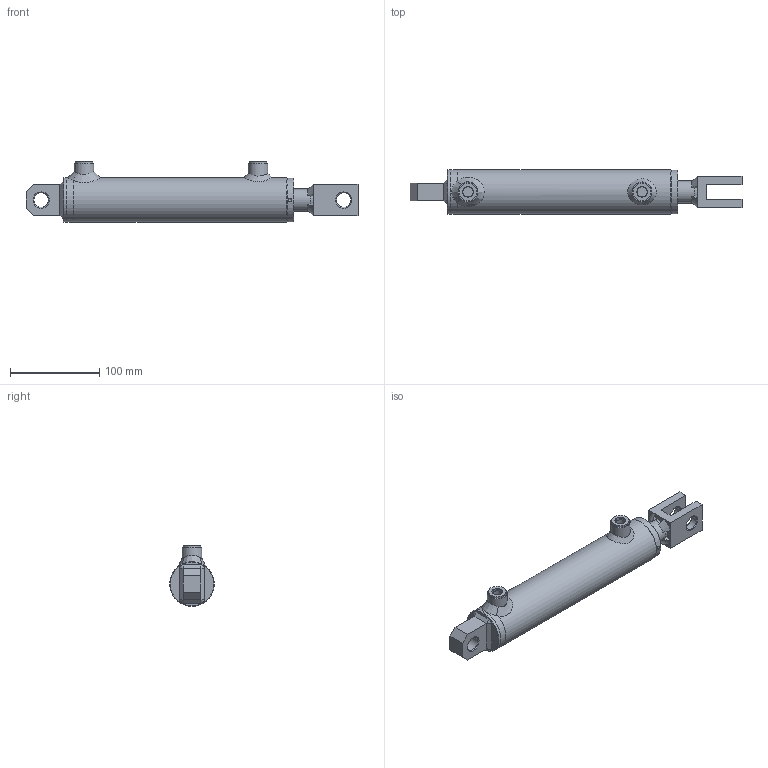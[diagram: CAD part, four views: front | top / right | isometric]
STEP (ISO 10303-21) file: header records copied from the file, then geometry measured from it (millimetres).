
FILE_DESCRIPTION( ( 'Unknown' ), '1' );
FILE_NAME( 'E:/LIBRERIA_3d/CILINDRI/HM5/HM51250150.stp', 'Unknown', ( 'Unknown' ), ( 'Unknown' ), 'PSStep 17.0.49', 'Unknown', ' ' );
FILE_SCHEMA( ( 'AUTOMOTIVE_DESIGN { 1 0 10303 214 1 1 1 1 }' ) );
Length unit declared in the file: millimetre
Products named in the file (35): STL1500150-oa7; Saldatura d'angolo 1-oa5; FTM1500150-oa6; CBSC220400; CG05004025; CT00040015; HM01250150; Saldatura con preparazione 1-oa3; Saldatura d'angolo 1-oa4; CF00040050; CDA0001415; CBS0400000; APG0400000; SBL2510150; Assem1; CSCS004010; COF1600000; CFS0000016; Saldatura con preparazione 1-oa0; Saldatura d'angolo 1-oa1; Saldatura d'angolo 2-oa2
Assembly tree (22 placements, depth 4):
  Saldatura d'angolo 1-oa5
  Saldatura d'angolo 1-oa5
  Saldatura d'angolo 1-oa4
  Saldatura d'angolo 1-oa4
  Assem1
    CSCS004010  x2
    COF1600000
    CFS0000016
    Saldatura con preparazione 1-oa0
    Saldatura con preparazione 1-oa0
    HM01250150
      Saldatura con preparazione 1-oa3
      Saldatura con preparazione 1-oa3
      CF00040050
      CDA0001415
      CBS0400000
      APG0400000  x2
      SBL2510150
      CT00040015
        CT00040015
      CG05004025
        CG05004025
      STL1500150-oa7
        FTM1500150-oa6
        CBSC220400
Bounding box: 372 x 50 x 68 mm (x, y, z)
Volume: 444557.6 mm3; surface area: 164357.1 mm2
Topology: 32 solids, 32 shells, 317 faces, 665 edges, 411 vertices
Faces by surface type: plane 118, cylinder 75, cone 58, bspline 34, torus 32
Full cylindrical faces by diameter (mm): 4 x4, 4.25 x3, 7 x2, 11.445 x2, 12 x2, 13.1 x2, 14 x2, 15 x3, 16.2 x3, 19.5 x1, 20 x2, 22 x3, 25 x6, 27 x1, 28 x1, 30 x1, 33 x1, 33.6 x1, 35 x1, 35.4 x2, 38.5 x2, 39.9 x1, 40 x1, 40.3 x1, 40.5 x1, 40.6 x1, 41 x1, 42 x3, 42.5 x1, 44 x1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
Entity records: 12678 total; most frequent: CARTESIAN_POINT 4561, DIRECTION 1188, ORIENTED_EDGE 872, AXIS2_PLACEMENT_3D 522, EDGE_LOOP 490, EDGE_CURVE 436, FACE_OUTER_BOUND 398, VERTEX_POINT 347
